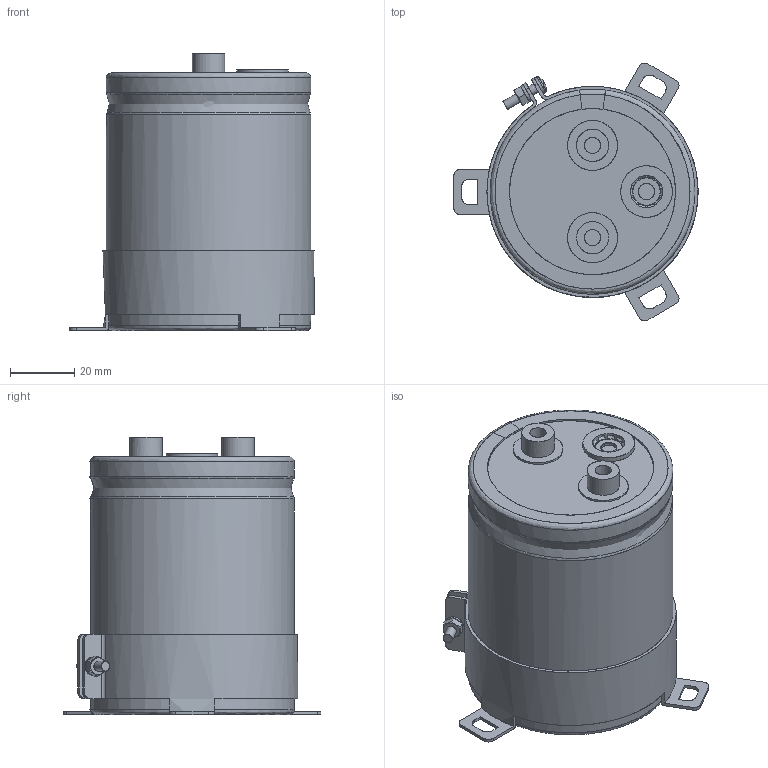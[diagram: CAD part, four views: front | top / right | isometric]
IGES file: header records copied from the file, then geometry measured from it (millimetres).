
Start section: JAMA-IS VERSION  1.0
Bounding box: 75.75 x 80.01 x 86 mm (x, y, z)
Surface area: 69101.9 mm2 (no closed solid volume)
Topology: 0 solids, 0 shells, 259 faces, 4436 edges, 4409 vertices
Faces by surface type: bspline 259
